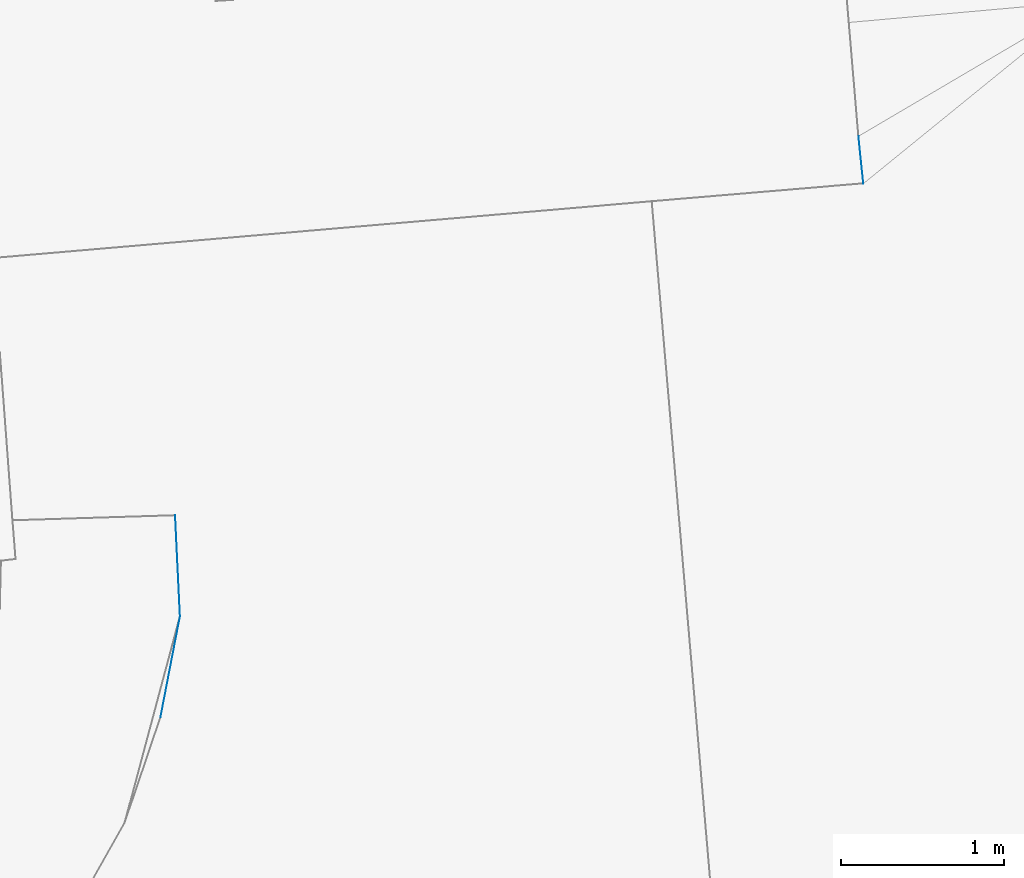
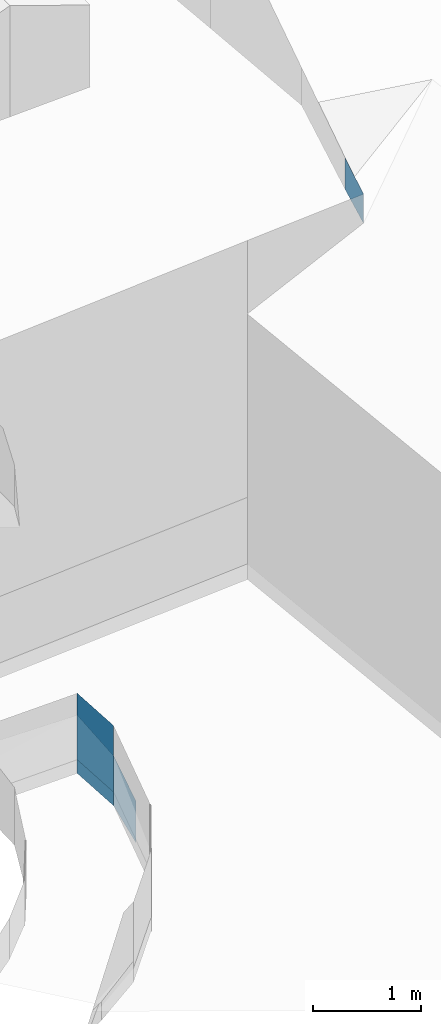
# Not in any storey, part 49 of 59: 5 walls.
"""IFC4 building model written with IfcOpenShell, lengths in metres."""

from ifc_helpers import new_model, entity, si_unit, converted_unit, origin, place, context, subcontext, project, spatial, face_set, surface_model, element, save


model = new_model("IFC4")

# Units and contexts
model_context = context("Model", 3, precision=1e-05, world=origin())
body_context = subcontext(model_context, "Body", "Model", "MODEL_VIEW")
ifc_project = project(units=[converted_unit("PLANEANGLEUNIT", "DEGREE", entity("IfcRatioMeasure", 0.0174532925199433), si_unit("PLANEANGLEUNIT", "RADIAN"), dimensions=[0, 0, 0, 0, 0, 0, 0]), si_unit("AREAUNIT", "SQUARE_METRE"), si_unit("LENGTHUNIT", "METRE")], contexts=[model_context])

# Site, building
site_placement = place(None, origin())
site = spatial("IfcSite", under=ifc_project, at=site_placement, Name="_site")
building_placement = place(site_placement, origin())
building = spatial("IfcBuilding", under=site, at=building_placement, Name="_building")

# Walls
wall_1_placement = place(building_placement, origin())
element("IfcWall", 1, at=wall_1_placement, inside=building, Name="Wall", PredefinedType="NOTDEFINED", context=body_context, shape_type="SurfaceModel", body=[
    surface_model("IfcFaceBasedSurfaceModel", [(245.85, 95.061, 230.08), (245.88, 94.77, 229.83), (245.88, 94.77, 229.5), (245.85, 95.061, 229.72)], [face_set([[[0, 1, 2, 3]]])]),
])
wall_2_placement = place(building_placement, origin())
element("IfcWall", 2, at=wall_2_placement, inside=building, Name="Wall", PredefinedType="NOTDEFINED", context=body_context, shape_type="SurfaceModel", body=[
    surface_model("IfcFaceBasedSurfaceModel", [(241.65, 92.73, 226.17), (241.68, 92.109, 226.17), (241.68, 92.109, 226.92), (241.65, 92.73, 226.92)], [face_set([[[0, 1, 2, 3]]])]),
])
wall_3_placement = place(building_placement, origin())
element("IfcWall", 3, at=wall_3_placement, inside=building, Name="Wall", PredefinedType="NOTDEFINED", context=body_context, shape_type="SurfaceModel", body=[
    surface_model("IfcFaceBasedSurfaceModel", [(241.65, 92.73, 226.676), (241.68, 92.109, 226.58), (241.68, 92.109, 226.016), (241.65, 92.73, 226.016)], [face_set([[[0, 1, 2, 3]]])]),
])
wall_4_placement = place(building_placement, origin())
element("IfcWall", 4, at=wall_4_placement, inside=building, Name="Wall", PredefinedType="NOTDEFINED", context=body_context, shape_type="SurfaceModel", body=[
    surface_model("IfcFaceBasedSurfaceModel", [(241.68, 92.109, 226.58), (241.56, 91.49, 226.491), (241.56, 91.49, 226.016), (241.68, 92.109, 226.016)], [face_set([[[0, 1, 2, 3]]])]),
])
wall_5_placement = place(building_placement, origin())
element("IfcWall", 5, at=wall_5_placement, inside=building, Name="Wall", PredefinedType="NOTDEFINED", context=body_context, shape_type="SurfaceModel", body=[
    surface_model("IfcFaceBasedSurfaceModel", [(241.68, 92.109, 226.17), (241.65, 92.73, 226.17), (241.65, 92.73, 226.016), (241.68, 92.109, 226.016)], [face_set([[[0, 1, 2, 3]]])]),
])

save(model, "model.ifc")
